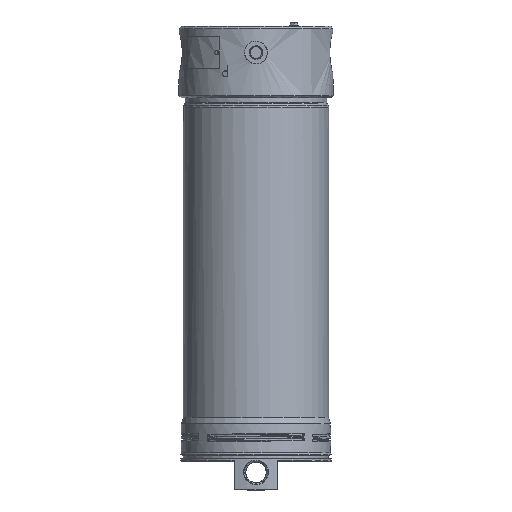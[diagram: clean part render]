
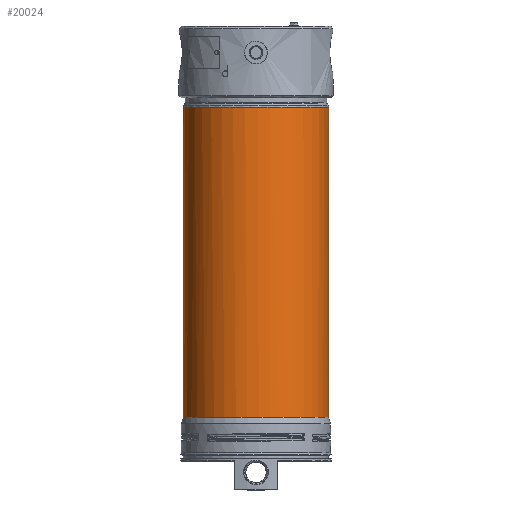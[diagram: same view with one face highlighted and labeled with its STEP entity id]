
A CAD part, front view. The second image highlights one B-rep face of the part: STEP entity #20024.
In plain terms, the highlighted free-form (B-spline) face has degree [2, 1] with [7, 2] control points.
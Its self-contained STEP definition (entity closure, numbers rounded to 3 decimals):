
#19896=CARTESIAN_POINT('V691',(-67.664,
   -6.808,-281.199));
#19897=VERTEX_POINT('V691',#19896);
#19911=CARTESIAN_POINT('V690',(60.336,-6.808,
   -281.199));
#19912=VERTEX_POINT('V690',#19911);
#19913=CARTESIAN_POINT('E1097',(60.336,
   -6.808,-281.199));
#19914=CARTESIAN_POINT('E1097',(60.336,
   30.142,-281.199));
#19915=CARTESIAN_POINT('E1097',(28.336,
   48.617,-281.199));
#19916=CARTESIAN_POINT('E1097',(-67.664,
   104.043,-281.199));
#19917=CARTESIAN_POINT('E1097',(-67.664,
   -6.808,-281.199));
#19925=(BOUNDED_CURVE()B_SPLINE_CURVE(2,(#19913,#19914,#19915,
   #19916,#19917),.CIRCULAR_ARC.,.F.,.U.)B_SPLINE_CURVE_WITH_KNOTS(
   (3,2,3),(11.588,15.45,
   23.175),.UNSPECIFIED.)CURVE()
   GEOMETRIC_REPRESENTATION_ITEM()RATIONAL_B_SPLINE_CURVE((
   0.75,0.75,1.0,0.5,1.0))
   REPRESENTATION_ITEM('E1097'));
#19926=EDGE_CURVE('E1097',#19912,#19897,#19925,.T.);
#19928=CARTESIAN_POINT('E1098',(-67.664,
   -6.808,-281.199));
#19929=CARTESIAN_POINT('E1098',(-67.664,
   -117.66,-281.199));
#19930=CARTESIAN_POINT('E1098',(28.336,
   -62.234,-281.199));
#19931=CARTESIAN_POINT('E1098',(60.336,
   -43.759,-281.199));
#19932=CARTESIAN_POINT('E1098',(60.336,
   -6.808,-281.199));
#19940=(BOUNDED_CURVE()B_SPLINE_CURVE(2,(#19928,#19929,#19930,
   #19931,#19932),.CIRCULAR_ARC.,.F.,.U.)B_SPLINE_CURVE_WITH_KNOTS(
   (3,2,3),(0.0,7.725,11.588),
   .UNSPECIFIED.)CURVE()GEOMETRIC_REPRESENTATION_ITEM()
   RATIONAL_B_SPLINE_CURVE((1.0,0.5,1.0,
   0.75,0.75))REPRESENTATION_ITEM('E1098')
   );
#19941=EDGE_CURVE('E1098',#19897,#19912,#19940,.T.);
#19948=CARTESIAN_POINT('F435',(60.336,-6.808,
   -281.299));
#19949=CARTESIAN_POINT('F435',(60.336,
   104.043,-281.299));
#19950=CARTESIAN_POINT('F435',(-35.664,
   48.617,-281.299));
#19951=CARTESIAN_POINT('F435',(-131.664,
   -6.808,-281.299));
#19952=CARTESIAN_POINT('F435',(-35.664,
   -62.234,-281.299));
#19953=CARTESIAN_POINT('F435',(60.336,
   -117.66,-281.299));
#19954=CARTESIAN_POINT('F435',(60.336,-6.808,
   -281.299));
#19955=CARTESIAN_POINT('F435',(60.336,-6.808,
   -7.2));
#19956=CARTESIAN_POINT('F435',(60.336,
   104.043,-7.2));
#19957=CARTESIAN_POINT('F435',(-35.664,
   48.617,-7.2));
#19958=CARTESIAN_POINT('F435',(-131.664,
   -6.808,-7.2));
#19959=CARTESIAN_POINT('F435',(-35.664,
   -62.234,-7.2));
#19960=CARTESIAN_POINT('F435',(60.336,
   -117.66,-7.2));
#19961=CARTESIAN_POINT('F435',(60.336,-6.808,
   -7.2));
#19969=(BOUNDED_SURFACE()B_SPLINE_SURFACE(2,1,((#19948,#19955),(
   #19949,#19956),(#19950,#19957),(#19951,#19958),(#19952,
   #19959),(#19953,#19960),(#19954,#19961)),.CYLINDRICAL_SURF.,
   .T.,.F.,.U.)B_SPLINE_SURFACE_WITH_KNOTS((3,2,2,3),(2,2),(0.0,
   0.809,1.618,2.427),(0.0,1.0),
   .UNSPECIFIED.)GEOMETRIC_REPRESENTATION_ITEM()
   RATIONAL_B_SPLINE_SURFACE(((1.0,1.0),(0.5,
   0.5),(1.0,1.0),(0.5,
   0.5),(1.0,1.0),(0.5,
   0.5),(1.0,1.0)))REPRESENTATION_ITEM('F435')
   SURFACE());
#19970=CARTESIAN_POINT('V689',(60.336,-6.808,
   -8.054));
#19971=VERTEX_POINT('V689',#19970);
#19972=CARTESIAN_POINT('E1095',(60.336,
   -6.808,-8.054));
#19973=CARTESIAN_POINT('E1095',(60.336,
   -10.863,-8.054));
#19974=CARTESIAN_POINT('E1095',(59.563,
   -18.977,-8.054));
#19975=CARTESIAN_POINT('E1095',(56.124,
   -30.705,-8.054));
#19976=CARTESIAN_POINT('E1095',(50.53,
   -41.574,-8.054));
#19977=CARTESIAN_POINT('E1095',(43.073,
   -51.075,-8.054));
#19978=CARTESIAN_POINT('E1095',(34.094,
   -58.929,-8.054));
#19979=CARTESIAN_POINT('E1095',(24.931,
   -64.362,-8.054));
#19980=CARTESIAN_POINT('E1095',(16.104,
   -67.87,-8.054));
#19981=CARTESIAN_POINT('E1095',(7.99,
   -69.924,-8.054));
#19982=CARTESIAN_POINT('E1095',(-0.323,
   -70.903,-8.054));
#19983=CARTESIAN_POINT('E1095',(-9.848,
   -70.778,-8.054));
#19984=CARTESIAN_POINT('E1095',(-20.4,
   -68.959,-8.054));
#19985=CARTESIAN_POINT('E1095',(-31.525,
   -64.83,-8.054));
#19986=CARTESIAN_POINT('E1095',(-41.704,
   -58.729,-8.054));
#19987=CARTESIAN_POINT('E1095',(-50.688,
   -50.776,-8.054));
#19988=CARTESIAN_POINT('E1095',(-58.114,
   -41.177,-8.054));
#19989=CARTESIAN_POINT('E1095',(-63.644,
   -30.227,-8.054));
#19990=CARTESIAN_POINT('E1095',(-66.997,
   -18.426,-8.054));
#19991=CARTESIAN_POINT('E1095',(-68.061,
   -6.085,-8.054));
#19992=CARTESIAN_POINT('E1095',(-66.718,
   6.351,-8.054));
#19993=CARTESIAN_POINT('E1095',(-62.939,
   18.4,-8.054));
#19994=CARTESIAN_POINT('E1095',(-56.882,
   29.479,-8.054));
#19995=CARTESIAN_POINT('E1095',(-48.589,
   39.393,-8.054));
#19996=CARTESIAN_POINT('E1095',(-38.224,
   47.62,-8.054));
#19997=CARTESIAN_POINT('E1095',(-26.549,
   53.413,-8.054));
#19998=CARTESIAN_POINT('E1095',(-14.459,
   56.654,-8.054));
#19999=CARTESIAN_POINT('E1095',(-2.475,
   57.555,-8.054));
#20000=CARTESIAN_POINT('E1095',(9.467,56.212,
   -8.054));
#20001=CARTESIAN_POINT('E1095',(20.141,
   52.923,-8.054));
#20002=CARTESIAN_POINT('E1095',(29.342,
   48.294,-8.054));
#20003=CARTESIAN_POINT('E1095',(37.073,
   42.853,-8.054));
#20004=CARTESIAN_POINT('E1095',(43.92,
   36.337,-8.054));
#20005=CARTESIAN_POINT('E1095',(49.737,
   28.885,-8.054));
#20006=CARTESIAN_POINT('E1095',(54.398,
   20.661,-8.054));
#20007=CARTESIAN_POINT('E1095',(57.801,
   11.842,-8.054));
#20008=CARTESIAN_POINT('E1095',(59.872,2.619,
   -8.054));
#20009=CARTESIAN_POINT('E1095',(60.336,
   -3.667,-8.054));
#20010=CARTESIAN_POINT('E1095',(60.336,
   -6.808,-8.054));
#20011=B_SPLINE_CURVE_WITH_KNOTS('E1095',3,(#19972,#19973,#19974,
   #19975,#19976,#19977,#19978,#19979,#19980,#19981,#19982,#19983,
   #19984,#19985,#19986,#19987,#19988,#19989,#19990,#19991,#19992,
   #19993,#19994,#19995,#19996,#19997,#19998,#19999,#20000,#20001,
   #20002,#20003,#20004,#20005,#20006,#20007,#20008,#20009,#20010),
   .UNSPECIFIED.,.T.,.U.,(4,1,1,1,1,1,1,1,1,1,1,1,1,1,1,1,1,1,1,1,1,
   1,1,1,1,1,1,1,1,1,1,1,1,1,1,1,4),(2.0,12.715,
   23.43,34.145,44.86,
   55.194,65.528,72.884,
   80.24,87.596,94.952,
   105.358,115.763,126.169,
   136.574,147.328,158.082,
   168.836,179.59,190.656,
   201.721,212.787,223.852,
   235.702,247.551,258.088,
   268.625,279.162,289.698,
   298.001,306.304,314.607,
   322.91,331.213,339.515,
   347.818,356.121),.UNSPECIFIED.);
#20012=EDGE_CURVE('E1095',#19971,#19971,#20011,.T.);
#20013=ORIENTED_EDGE('E1095',*,*,#20012,.T.);
#20014=CARTESIAN_POINT('E1096',(60.336,
   -6.808,-8.054));
#20015=CARTESIAN_POINT('E1096',(60.336,
   -6.808,-281.199));
#20016=B_SPLINE_CURVE_WITH_KNOTS('E1096',1,(#20014,#20015),
   .POLYLINE_FORM.,.F.,.U.,(2,2),(0.,
   0.997),.UNSPECIFIED.);
#20017=EDGE_CURVE('E1096',#19971,#19912,#20016,.T.);
#20018=ORIENTED_EDGE('E1096',*,*,#20017,.T.);
#20019=ORIENTED_EDGE('E1097',*,*,#19926,.T.);
#20020=ORIENTED_EDGE('E1098',*,*,#19941,.T.);
#20021=ORIENTED_EDGE('E1096',*,*,#20017,.F.);
#20022=EDGE_LOOP('F435',(#20013,#20018,#20019,#20020,#20021));
#20023=FACE_OUTER_BOUND('F435',#20022,.T.);
#20024=ADVANCED_FACE('F435',(#20023),#19969,.T.);
